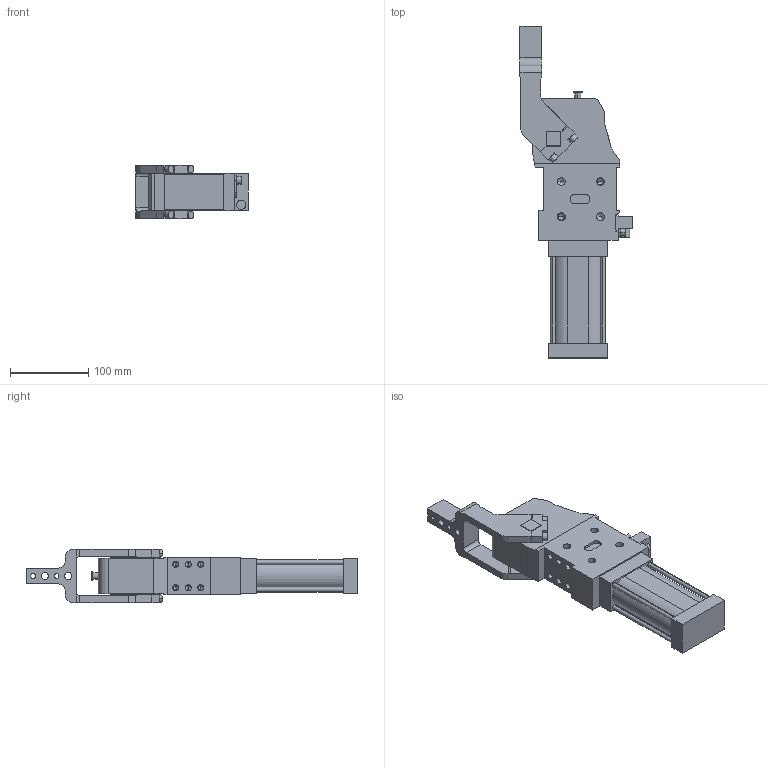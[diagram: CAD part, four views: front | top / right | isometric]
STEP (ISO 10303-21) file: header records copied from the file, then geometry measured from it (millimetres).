
FILE_DESCRIPTION (( 'STEP AP214' ), '1' );
FILE_NAME ('cpl50h1ci1g_107.STEP', '2023-01-26T08:47:21', ( '' ), ( '' ), 'SwSTEP 2.0', 'SolidWorks 2022', '' );
FILE_SCHEMA (( 'AUTOMOTIVE_DESIGN' ));
Length unit declared in the file: millimetre
Products named in the file (4): meccanica_cpl_50; blocchetto_VEP_0; leva_cx_offset_15_cpl50; cpl50h1ci1g_107
Assembly tree (3 placements, depth 2):
  cpl50h1ci1g_107
    meccanica_cpl_50
    blocchetto_VEP_0
    leva_cx_offset_15_cpl50
Bounding box: 143.5 x 424.5 x 69 mm (x, y, z)
Volume: 1377699.2 mm3; surface area: 162299.6 mm2
Topology: 3 solids, 3 shells, 399 faces, 1029 edges, 639 vertices
Faces by surface type: plane 193, cylinder 156, cone 50
Entity records: 13415 total; most frequent: DIRECTION 2119, CARTESIAN_POINT 2097, ORIENTED_EDGE 1966, EDGE_CURVE 983, AXIS2_PLACEMENT_3D 735, VECTOR 649, LINE 649, VERTEX_POINT 639
